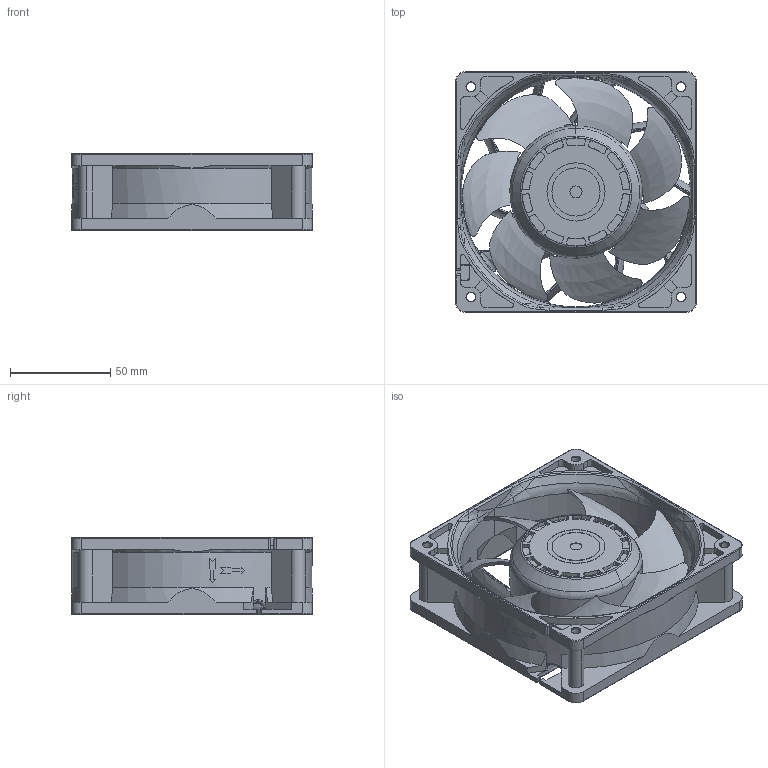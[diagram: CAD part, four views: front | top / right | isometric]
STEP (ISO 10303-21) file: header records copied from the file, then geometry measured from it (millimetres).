
FILE_DESCRIPTION (( 'STEP AP203' ), '1' );
FILE_NAME ('12038AD_RIBBED.STEP', '2022-09-02T06:11:55', ( '' ), ( '' ), 'SwSTEP 2.0', 'SolidWorks 2019', '' );
FILE_SCHEMA (( 'CONFIG_CONTROL_DESIGN' ));
Length unit declared in the file: millimetre
Products named in the file (1): 12038AD_RIBBED
Bounding box: 120 x 120 x 38.2 mm (x, y, z)
Volume: 199095.9 mm3; surface area: 84603.9 mm2
Topology: 1 solids, 1 shells, 856 faces, 2386 edges, 1528 vertices
Faces by surface type: plane 234, cylinder 205, bspline 152, cone 134, torus 131
Entity records: 36672 total; most frequent: CARTESIAN_POINT 16402, ORIENTED_EDGE 4732, DIRECTION 3706, EDGE_CURVE 2366, AXIS2_PLACEMENT_3D 1559, VERTEX_POINT 1528, EDGE_LOOP 900, B_SPLINE_CURVE_WITH_KNOTS 880
